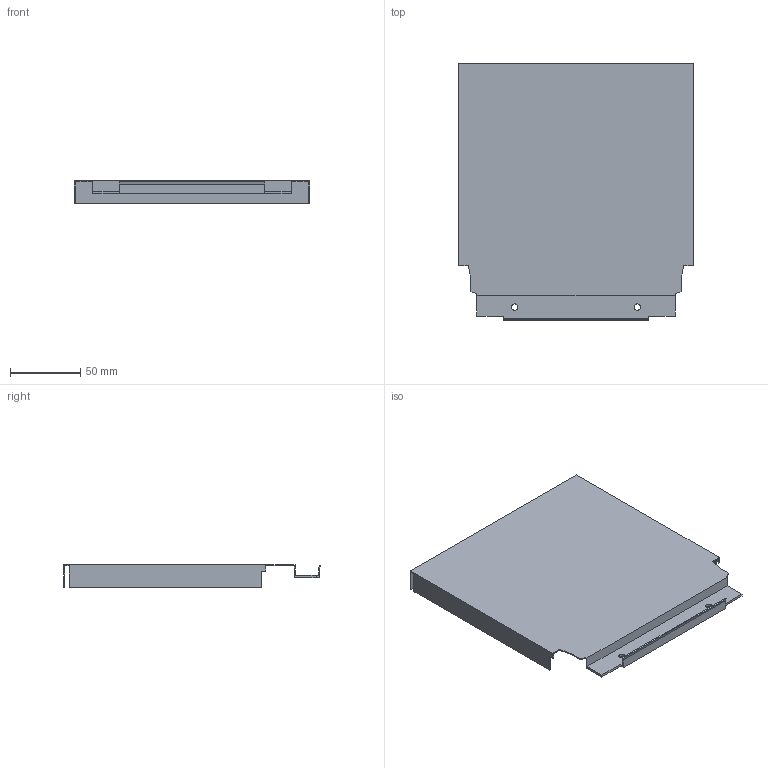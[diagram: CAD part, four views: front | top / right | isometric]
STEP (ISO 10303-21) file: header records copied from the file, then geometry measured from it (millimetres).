
FILE_DESCRIPTION (( 'STEP AP214' ), '1' );
FILE_NAME ('_DWD_XP Stahlrückwand_H182_KAB250_S16.step', '2010-07-08T12:57:30', ( 'grass' ), ( '' ), 'SwSTEP 2.0', 'SolidWorks 2010', '' );
FILE_SCHEMA (( 'AUTOMOTIVE_DESIGN' ));
Length unit declared in the file: millimetre
Products named in the file (1): _DWD_XP Stahlrückwand_H182_KAB250_S16
Bounding box: 167 x 182.49 x 16 mm (x, y, z)
Volume: 32536.7 mm3; surface area: 76867.6 mm2
Topology: 1 solids, 1 shells, 44 faces, 126 edges, 84 vertices
Faces by surface type: plane 40, cylinder 4
Entity records: 1460 total; most frequent: CARTESIAN_POINT 255, ORIENTED_EDGE 252, DIRECTION 224, EDGE_CURVE 126, VECTOR 118, LINE 118, VERTEX_POINT 84, AXIS2_PLACEMENT_3D 53
